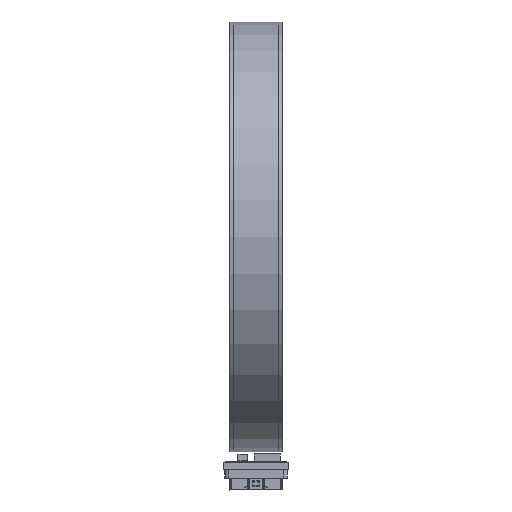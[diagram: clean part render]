
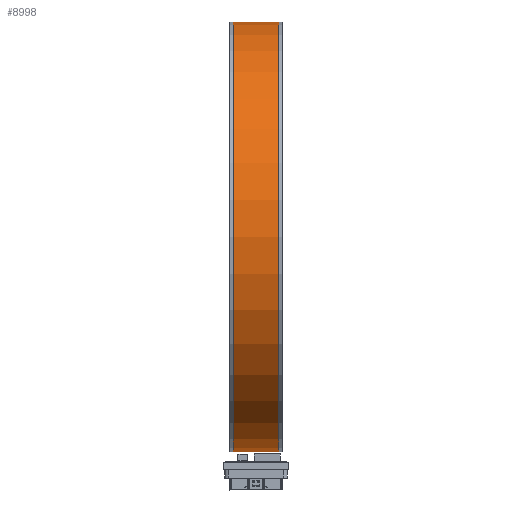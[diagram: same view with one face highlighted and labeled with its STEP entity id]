
A CAD part, left-side view. The second image highlights one B-rep face of the part: STEP entity #8998.
In plain terms, the highlighted cylindrical face has radius 57 mm (diameter 114 mm), a partial arc.
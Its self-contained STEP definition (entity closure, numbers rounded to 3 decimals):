
#3279 = VERTEX_POINT ( 'NONE', #37869 ) ;
#4293 = DIRECTION ( 'NONE',  ( 0., 0., 1. ) ) ;
#6848 = DIRECTION ( 'NONE',  ( 0., 0., 1. ) ) ;
#8998 = ADVANCED_FACE ( 'NONE', ( #80186 ), #31245, .T. ) ;
#13630 = EDGE_CURVE ( 'NONE', #31000, #21025, #86456, .T. ) ;
#13889 = CARTESIAN_POINT ( 'NONE',  ( 0., 1., 57. ) ) ;
#13918 = DIRECTION ( 'NONE',  ( 0., 0., -1. ) ) ;
#15149 = VECTOR ( 'NONE', #33705, 1000. ) ;
#21025 = VERTEX_POINT ( 'NONE', #59984 ) ;
#24363 = AXIS2_PLACEMENT_3D ( 'NONE', #60923, #68544, #6848 ) ;
#27598 = EDGE_CURVE ( 'NONE', #3279, #84430, #31585, .T. ) ;
#31000 = VERTEX_POINT ( 'NONE', #72514 ) ;
#31245 = CYLINDRICAL_SURFACE ( 'NONE', #24363, 57. ) ;
#31585 = CIRCLE ( 'NONE', #71784, 57. ) ;
#33705 = DIRECTION ( 'NONE',  ( 0., 1., 0. ) ) ;
#35860 = VECTOR ( 'NONE', #73976, 1000. ) ;
#36496 = EDGE_CURVE ( 'NONE', #3279, #21025, #61170, .T. ) ;
#37869 = CARTESIAN_POINT ( 'NONE',  ( 0., 1., -57. ) ) ;
#39121 = ORIENTED_EDGE ( 'NONE', *, *, #13630, .T. ) ;
#42105 = EDGE_LOOP ( 'NONE', ( #77181, #51964, #68489, #39121 ) ) ;
#47633 = EDGE_CURVE ( 'NONE', #84430, #31000, #53827, .T. ) ;
#47835 = AXIS2_PLACEMENT_3D ( 'NONE', #62155, #69305, #13918 ) ;
#51964 = ORIENTED_EDGE ( 'NONE', *, *, #27598, .T. ) ;
#53057 = CARTESIAN_POINT ( 'NONE',  ( 0., 1., 0. ) ) ;
#53827 = LINE ( 'NONE', #59244, #35860 ) ;
#53970 = CARTESIAN_POINT ( 'NONE',  ( 0., -15., -57. ) ) ;
#54419 = DIRECTION ( 'NONE',  ( 0., 1., 0. ) ) ;
#59244 = CARTESIAN_POINT ( 'NONE',  ( 0., -15., 57. ) ) ;
#59984 = CARTESIAN_POINT ( 'NONE',  ( 0., 13., -57. ) ) ;
#60923 = CARTESIAN_POINT ( 'NONE',  ( 0., -15., 0. ) ) ;
#61170 = LINE ( 'NONE', #53970, #15149 ) ;
#62155 = CARTESIAN_POINT ( 'NONE',  ( 0., 13., 0. ) ) ;
#68489 = ORIENTED_EDGE ( 'NONE', *, *, #47633, .T. ) ;
#68544 = DIRECTION ( 'NONE',  ( 0., 1., 0. ) ) ;
#69305 = DIRECTION ( 'NONE',  ( 0., -1., 0. ) ) ;
#71784 = AXIS2_PLACEMENT_3D ( 'NONE', #53057, #54419, #4293 ) ;
#72514 = CARTESIAN_POINT ( 'NONE',  ( 0., 13., 57. ) ) ;
#73976 = DIRECTION ( 'NONE',  ( 0., 1., 0. ) ) ;
#77181 = ORIENTED_EDGE ( 'NONE', *, *, #36496, .F. ) ;
#80186 = FACE_OUTER_BOUND ( 'NONE', #42105, .T. ) ;
#84430 = VERTEX_POINT ( 'NONE', #13889 ) ;
#86456 = CIRCLE ( 'NONE', #47835, 57. ) ;
